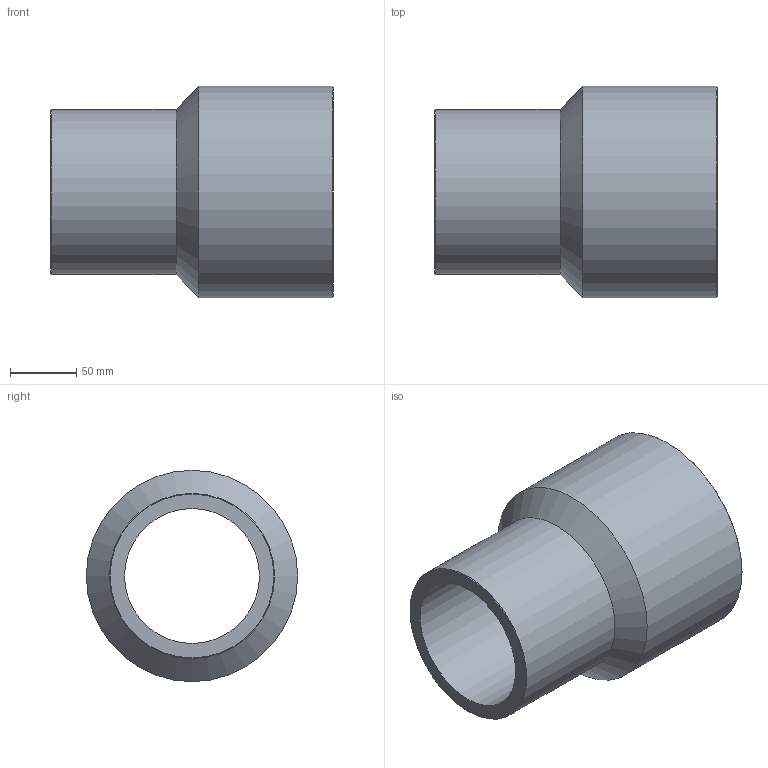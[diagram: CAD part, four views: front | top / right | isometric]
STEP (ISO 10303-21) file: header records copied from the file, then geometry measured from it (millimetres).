
FILE_DESCRIPTION(/* description */ ('Unknown'),/* implementation_level */ '2;1');
FILE_NAME(/* name */ 'RP160125C',/* time_stamp */ '2021-09-17T15:16:46+02:00',/* author */ ('Unknown'),/* organization */ ('Unknown'),/* preprocessor_version */ 'ST-DEVELOPER v16.7',/* originating_system */ 'Solid Edge',/* authorisation */ 'Unknown');
FILE_SCHEMA (('AUTOMOTIVE_DESIGN {1 0 10303 214 3 1 1}'));
Length unit declared in the file: millimetre
Products named in the file (1): RP160125C
Bounding box: 214 x 160 x 160 mm (x, y, z)
Volume: 1199304.6 mm3; surface area: 189505.7 mm2
Topology: 1 solids, 1 shells, 10 faces, 19 edges, 11 vertices
Faces by surface type: cylinder 4, cone 4, plane 2
Full cylindrical faces by diameter (mm): 102.2 x1, 125 x1, 130.8 x1, 160 x1
Entity records: 238 total; most frequent: DIRECTION 42, CARTESIAN_POINT 31, AXIS2_PLACEMENT_3D 21, ORIENTED_EDGE 20, EDGE_LOOP 20, FACE_BOUND 20, EDGE_CURVE 10, VERTEX_POINT 10
